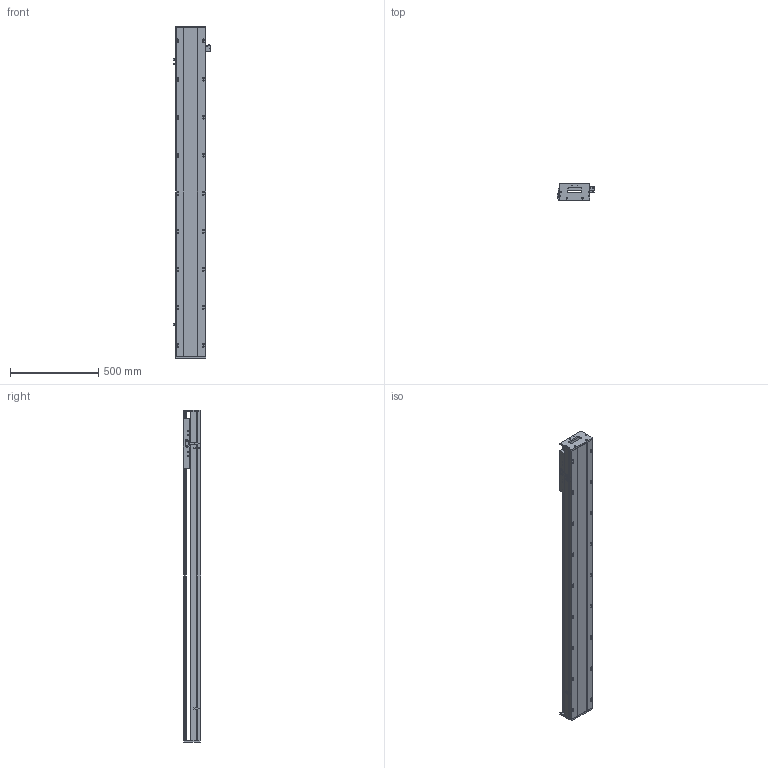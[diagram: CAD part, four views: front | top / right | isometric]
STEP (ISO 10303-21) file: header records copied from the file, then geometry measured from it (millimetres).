
FILE_DESCRIPTION (( 'STEP AP203' ), '1' );
FILE_NAME ('SKR17S-C2-S1504（简）.STEP', '2022-09-29T08:04:17', ( '' ), ( '' ), 'SwSTEP 2.0', 'SolidWorks 2018', '' );
FILE_SCHEMA (( 'CONFIG_CONTROL_DESIGN' ));
Length unit declared in the file: millimetre
Products named in the file (8): SKR17S-C2-S1504（简）; SKR17滑台-280L（简）; 棠掑假蚾輸; 感应片（SKR12S-14S-17S）; SKR17底座-C2-S1504（简); SIKO棠掑; SKR17耜啣; EE-SX672
Assembly tree (10 placements, depth 2):
  SKR17S-C2-S1504（简）
    SKR17底座-C2-S1504（简)
    SIKO棠掑
    EE-SX672  x3
    SKR17耜啣  x2
    棠掑假蚾輸
    SKR17滑台-280L（简）
    感应片（SKR12S-14S-17S）
Bounding box: 212.7 x 97 x 1884 mm (x, y, z)
Volume: 14904715.4 mm3; surface area: 1835508 mm2
Topology: 11 solids, 11 shells, 1240 faces, 3450 edges, 2214 vertices
Faces by surface type: cylinder 601, plane 509, cone 130
Entity records: 37923 total; most frequent: CARTESIAN_POINT 9903, ORIENTED_EDGE 5888, DIRECTION 5437, EDGE_CURVE 2944, AXIS2_PLACEMENT_3D 1932, VERTEX_POINT 1918, LINE 1573, VECTOR 1573
